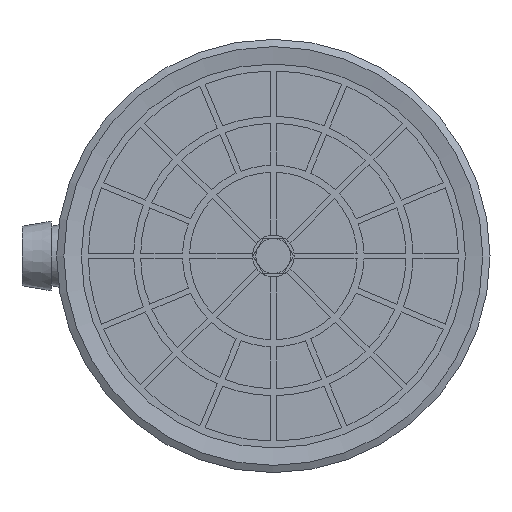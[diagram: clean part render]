
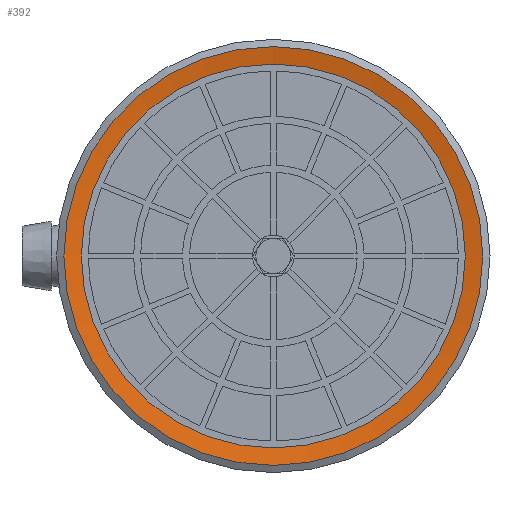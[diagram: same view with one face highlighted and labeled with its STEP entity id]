
A CAD part, front view. The second image highlights one B-rep face of the part: STEP entity #392.
In plain terms, the highlighted conical face has half-angle 80 degrees and reference radius 15 mm.
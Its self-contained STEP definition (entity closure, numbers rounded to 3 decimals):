
#392=ADVANCED_FACE('',(#785,#786),#787,.F.);
#785=FACE_BOUND('',#1486,.T.);
#786=FACE_OUTER_BOUND('',#1487,.T.);
#787=CONICAL_SURFACE('',#1488,15.0,1.396);
#1486=EDGE_LOOP('',(#2478));
#1487=EDGE_LOOP('',(#2479));
#1488=AXIS2_PLACEMENT_3D('',#2480,#2481,#2482);
#2478=ORIENTED_EDGE('',*,*,#4439,.T.);
#2479=ORIENTED_EDGE('',*,*,#4440,.F.);
#2480=CARTESIAN_POINT('',(0.0,0.,0.));
#2481=DIRECTION('',(0.0,0.,-1.0));
#2482=DIRECTION('',(0.0,1.0,0.));
#4439=EDGE_CURVE('',#5215,#5215,#5216,.T.);
#4440=EDGE_CURVE('',#5217,#5217,#5218,.T.);
#5215=VERTEX_POINT('',#6467);
#5216=CIRCLE('',#6468,13.75);
#5217=VERTEX_POINT('',#6469);
#5218=CIRCLE('',#6470,15.0);
#6467=CARTESIAN_POINT('',(0.0,-13.75,0.22));
#6468=AXIS2_PLACEMENT_3D('',#8186,#8187,#8188);
#6469=CARTESIAN_POINT('',(0.0,-15.0,0.));
#6470=AXIS2_PLACEMENT_3D('',#8189,#8190,#8191);
#8186=CARTESIAN_POINT('',(0.0,0.,0.22));
#8187=DIRECTION('',(0.0,0.,1.0));
#8188=DIRECTION('',(0.0,-1.0,0.));
#8189=CARTESIAN_POINT('',(0.0,0.,0.));
#8190=DIRECTION('',(0.0,0.,1.0));
#8191=DIRECTION('',(0.0,-1.0,0.));
